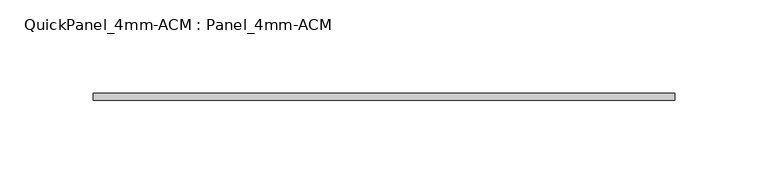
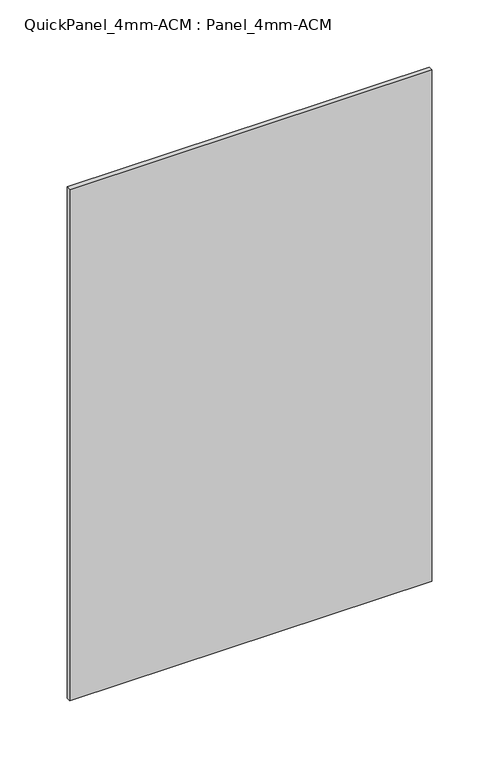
"""IFC4 building model written with IfcOpenShell, lengths in millimetres: plate geometry, QuickPanel_4mm-ACM : Panel_4mm-ACM."""

from ifc_helpers import new_model, si_unit, origin, origin_with_axes, place, context, project, spatial, polyline, outline, extrude, source, transform, mapped, element, save


def quickpanel_4mm_acm_panel_4mm_acm_ee801b86(model_context):
    return source(origin(), model_context, "Body", "SweptSolid", [
        extrude(outline(polyline([(-155.9412714, -6.096), (155.9412714, -6.096), (155.9412714, -9.906), (-155.9412714, -9.906), (-155.9412714, -6.096)])), origin_with_axes(), (0.0, 0.0, 1.0), 465.6618949),
    ])


if __name__ == "__main__":
    model = new_model("IFC4")
    model_context = context("Model", 3, world=origin())
    ifc_project = project(units=[si_unit("LENGTHUNIT", "METRE", prefix="MILLI")], contexts=[model_context])
    site = spatial("IfcSite", under=ifc_project)
    building = spatial("IfcBuilding", under=site)
    placement = place(None, origin())
    quickpanel_4mm_acm_panel_4mm_acm_shape = quickpanel_4mm_acm_panel_4mm_acm_ee801b86(model_context)
    element("IfcPlate", 1, ObjectType="QuickPanel_4mm-ACM : Panel_4mm-ACM", at=placement, inside=building, context=model_context, shape_type="MappedRepresentation", body=[
        mapped(quickpanel_4mm_acm_panel_4mm_acm_shape, transform((0.0, 0.0, 0.0), x_axis=(1.0, 0.0, 0.0), y_axis=(0.0, 1.0, 0.0), z_axis=(0.0, 0.0, 1.0))),
    ])
    save(model, "model.ifc")
